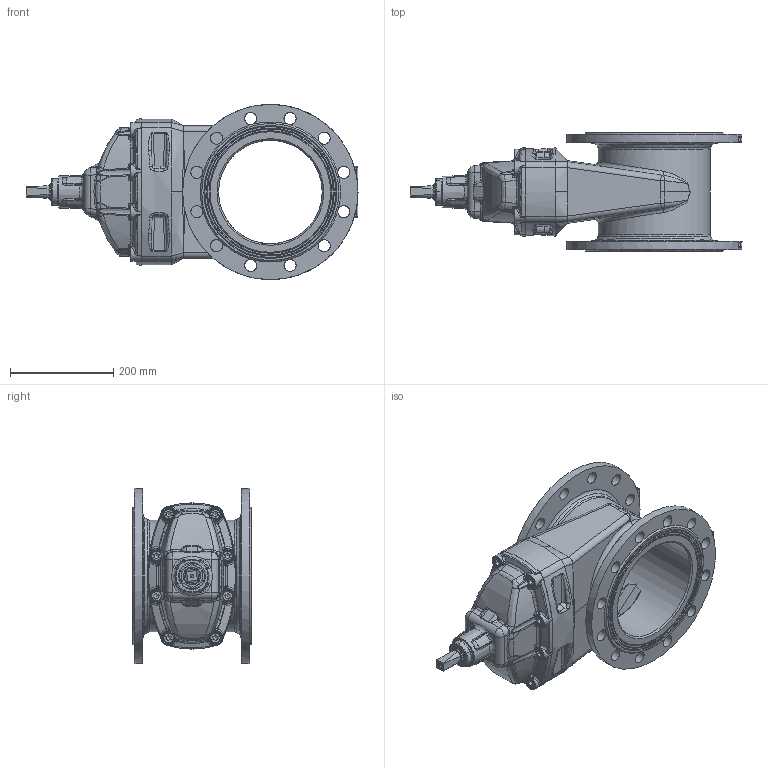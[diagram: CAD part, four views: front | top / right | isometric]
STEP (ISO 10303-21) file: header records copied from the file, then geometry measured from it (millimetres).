
FILE_DESCRIPTION(/* description */ (''),/* implementation_level */ '2;1');
FILE_NAME(/* name */ 'F4-DN200PN16.stp',/* time_stamp */ '2024-08-01T08:20:09+07:00',/* author */ ('Eva'),/* organization */ (''),/* preprocessor_version */ 'ST-DEVELOPER v20',/* originating_system */ 'Autodesk Inventor 2025',/* authorisation */ '');
FILE_SCHEMA (('AUTOMOTIVE_DESIGN { 1 0 10303 214 3 1 1 }'));
Length unit declared in the file: metre
Products named in the file (7): F4-DN200PN16; ·§ёЗ DN200PN16(YZ45X08302-02-00 
QT450-10); ·§ёЛ DN200PN16(YZ45X08302-04-00 
); Ц№НЖВЭДё DN200PN16(YZ4
5X08302-09-00 ); ·АіѕГЬ·вИ¦ DN20
0PN16(YZ45X08302-10-00 NBR); M12 ДЪБщЅЗФІЦщН·ВЭ¶¤ 
GB T 70.1-2000(M12ЎБ25); ·§Ме DN200PN16-КдИл
Assembly tree (13 placements, depth 2):
  F4-DN200PN16
    ·§ёЗ DN200PN16(YZ45X08302-02-00 
QT450-10)
    ·§ёЛ DN200PN16(YZ45X08302-04-00 
)
    Ц№НЖВЭДё DN200PN16(YZ4
5X08302-09-00 )
    ·АіѕГЬ·вИ¦ DN20
0PN16(YZ45X08302-10-00 NBR)
    M12 ДЪБщЅЗФІЦщН·ВЭ¶¤ 
GB T 70.1-2000(M12ЎБ25)  x8
    ·§Ме DN200PN16-КдИл
Bounding box: 644 x 230 x 340 mm (x, y, z)
Volume: 5153701.5 mm3; surface area: 1031642.3 mm2
Topology: 13 solids, 13 shells, 1484 faces, 3638 edges, 2122 vertices
Faces by surface type: bspline 570, plane 301, cylinder 300, cone 133, torus 118, sphere 62
Full cylindrical faces by diameter (mm): 6.8 x1, 10.2 x8, 12 x8, 14 x8, 18.27 x8, 23.5 x24, 32 x2, 33 x1, 44.3 x1, 51 x1, 52 x1, 201 x1, 217 x1, 340 x2
Entity records: 83692 total; most frequent: CARTESIAN_POINT 55272, ORIENTED_EDGE 6602, DIRECTION 5051, EDGE_CURVE 3301, AXIS2_PLACEMENT_3D 2213, VERTEX_POINT 1958, EDGE_LOOP 1433, FACE_OUTER_BOUND 1358
